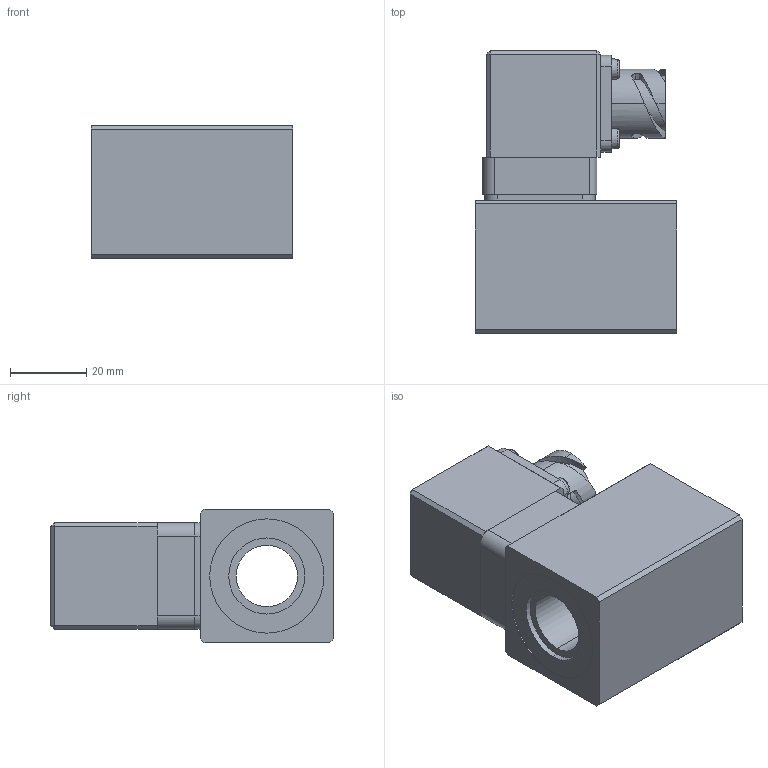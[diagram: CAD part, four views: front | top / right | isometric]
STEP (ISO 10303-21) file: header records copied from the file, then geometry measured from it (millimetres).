
FILE_DESCRIPTION (( 'STEP AP214' ), '1' );
FILE_NAME ('MBS35_16x50-AC.STEP', '2015-07-03T07:53:43', ( '' ), ( '' ), 'SwSTEP 2.0', 'SolidWorks 2014', '' );
FILE_SCHEMA (( 'AUTOMOTIVE_DESIGN' ));
Length unit declared in the file: millimetre
Products named in the file (2): MBS35_16x50-AC
Bounding box: 53 x 74.3 x 35 mm (x, y, z)
Volume: 88924.9 mm3; surface area: 22831.2 mm2
Topology: 2 solids, 14 shells, 344 faces, 832 edges, 543 vertices
Faces by surface type: plane 176, cylinder 119, torus 22, cone 18, bspline 9
Entity records: 14267 total; most frequent: CARTESIAN_POINT 2655, DIRECTION 1695, ORIENTED_EDGE 1664, EDGE_CURVE 832, AXIS2_PLACEMENT_3D 634, VERTEX_POINT 543, LINE 427, VECTOR 427
